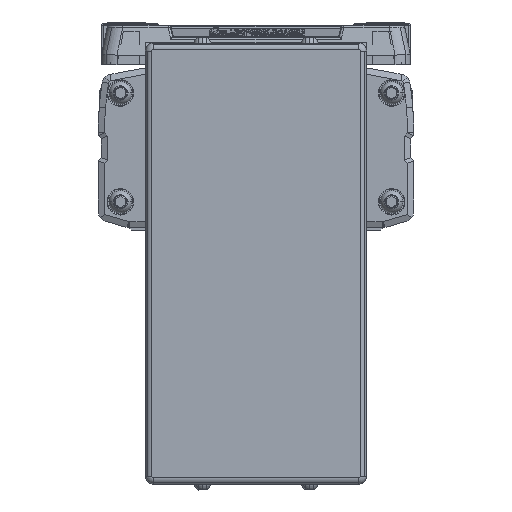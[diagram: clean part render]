
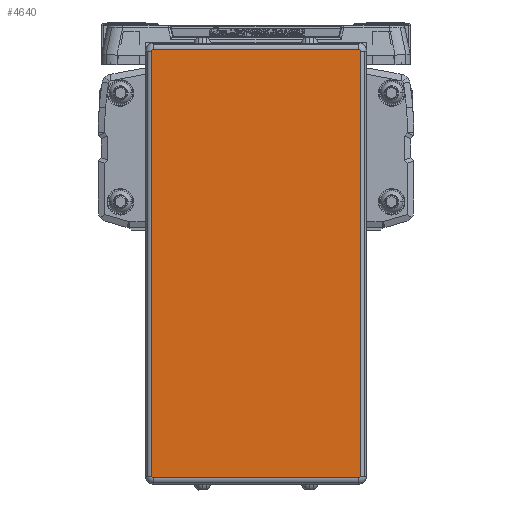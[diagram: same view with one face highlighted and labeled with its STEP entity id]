
A CAD part, left-side view. The second image highlights one B-rep face of the part: STEP entity #4640.
In plain terms, the highlighted planar face has unit normal (-1, 0, 0).
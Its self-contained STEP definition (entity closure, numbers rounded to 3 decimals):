
#4640=ADVANCED_FACE('',(#10090),#10091,.F.);
#10090=FACE_OUTER_BOUND('',#16862,.T.);
#10091=PLANE('',#16863);
#16862=EDGE_LOOP('',(#30023,#30024,#30025,#30026,#30027,#30028,#30029,#30030));
#16863=AXIS2_PLACEMENT_3D('',#30031,#30032,#30033);
#30023=ORIENTED_EDGE('',*,*,#38957,.T.);
#30024=ORIENTED_EDGE('',*,*,#43475,.T.);
#30025=ORIENTED_EDGE('',*,*,#40733,.T.);
#30026=ORIENTED_EDGE('',*,*,#43476,.T.);
#30027=ORIENTED_EDGE('',*,*,#43477,.T.);
#30028=ORIENTED_EDGE('',*,*,#43478,.T.);
#30029=ORIENTED_EDGE('',*,*,#43479,.T.);
#30030=ORIENTED_EDGE('',*,*,#43480,.T.);
#30031=CARTESIAN_POINT('',(-616.0,0.,-41.6));
#30032=DIRECTION('',(1.0,0.,0.));
#30033=DIRECTION('',(0.,0.,1.0));
#38957=EDGE_CURVE('',#46723,#46721,#46724,.T.);
#40733=EDGE_CURVE('',#49718,#49716,#49719,.T.);
#43475=EDGE_CURVE('',#46721,#49718,#53731,.T.);
#43476=EDGE_CURVE('',#49716,#53732,#53733,.T.);
#43477=EDGE_CURVE('',#53732,#53734,#53735,.T.);
#43478=EDGE_CURVE('',#53734,#53736,#53737,.T.);
#43479=EDGE_CURVE('',#53736,#53738,#53739,.T.);
#43480=EDGE_CURVE('',#53738,#46723,#53740,.T.);
#46721=VERTEX_POINT('',#57702);
#46723=VERTEX_POINT('',#57704);
#46724=LINE('',#57705,#57706);
#49716=VERTEX_POINT('',#61786);
#49718=VERTEX_POINT('',#61788);
#49719=LINE('',#61789,#61790);
#53731=CIRCLE('',#67372,0.5);
#53732=VERTEX_POINT('',#67373);
#53733=CIRCLE('',#67374,0.5);
#53734=VERTEX_POINT('',#67375);
#53735=LINE('',#67376,#67377);
#53736=VERTEX_POINT('',#67378);
#53737=CIRCLE('',#67379,0.5);
#53738=VERTEX_POINT('',#67380);
#53739=LINE('',#67381,#67382);
#53740=CIRCLE('',#67383,0.5);
#57702=CARTESIAN_POINT('',(-616.,-33.05,25.8));
#57704=CARTESIAN_POINT('',(-616.0,-33.05,-109.));
#57705=CARTESIAN_POINT('',(-616.,-33.05,-41.6));
#57706=VECTOR('',#71559,10.0);
#61786=CARTESIAN_POINT('',(-616.,32.55,26.3));
#61788=CARTESIAN_POINT('',(-616.,-32.55,26.3));
#61789=CARTESIAN_POINT('',(-616.,0.,26.3));
#61790=VECTOR('',#74003,10.0);
#67372=AXIS2_PLACEMENT_3D('',#77572,#77573,#77574);
#67373=CARTESIAN_POINT('',(-616.,33.05,25.8));
#67374=AXIS2_PLACEMENT_3D('',#77575,#77576,#77577);
#67375=CARTESIAN_POINT('',(-616.0,33.05,-109.));
#67376=CARTESIAN_POINT('',(-616.0,33.05,-41.6));
#67377=VECTOR('',#77578,10.0);
#67378=CARTESIAN_POINT('',(-616.0,32.55,-109.5));
#67379=AXIS2_PLACEMENT_3D('',#77579,#77580,#77581);
#67380=CARTESIAN_POINT('',(-616.0,-32.55,-109.5));
#67381=CARTESIAN_POINT('',(-616.0,0.,-109.5));
#67382=VECTOR('',#77582,10.0);
#67383=AXIS2_PLACEMENT_3D('',#77583,#77584,#77585);
#71559=DIRECTION('',(0.,0.,1.0));
#74003=DIRECTION('',(0.,1.0,0.));
#77572=CARTESIAN_POINT('',(-616.,-32.55,25.8));
#77573=DIRECTION('',(-1.0,0.,0.));
#77574=DIRECTION('',(0.,-0.707,0.707));
#77575=CARTESIAN_POINT('',(-616.,32.55,25.8));
#77576=DIRECTION('',(-1.0,0.,0.));
#77577=DIRECTION('',(0.,0.707,0.707));
#77578=DIRECTION('',(0.,0.,-1.0));
#77579=CARTESIAN_POINT('',(-616.0,32.55,-109.));
#77580=DIRECTION('',(-1.0,0.,0.));
#77581=DIRECTION('',(0.,0.707,-0.707));
#77582=DIRECTION('',(0.,-1.0,0.));
#77583=CARTESIAN_POINT('',(-616.0,-32.55,-109.));
#77584=DIRECTION('',(-1.0,0.,0.));
#77585=DIRECTION('',(0.,-0.707,-0.707));
